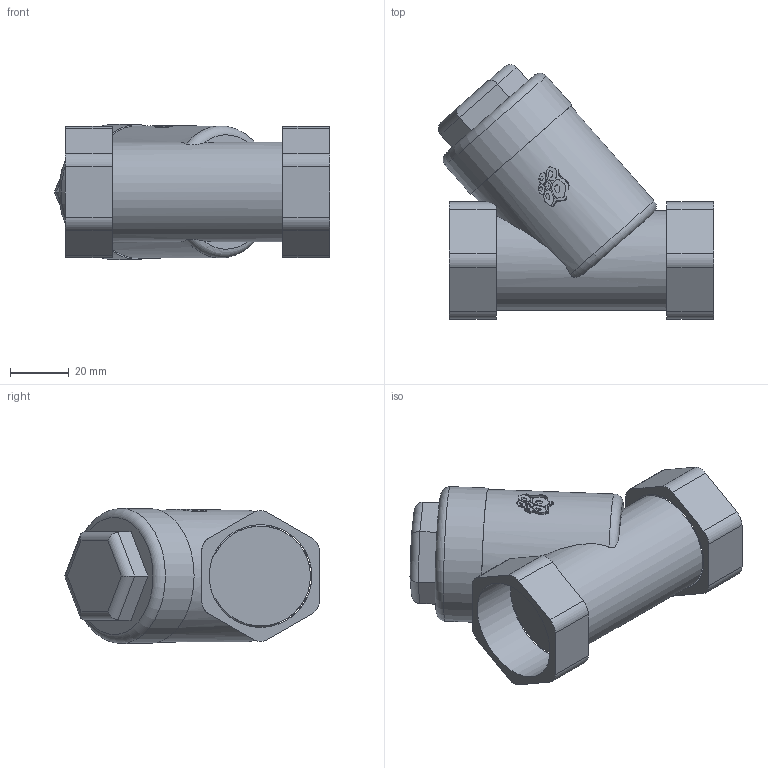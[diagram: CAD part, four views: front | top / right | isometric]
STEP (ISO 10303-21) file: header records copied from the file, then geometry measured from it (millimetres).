
FILE_DESCRIPTION(('STEP AP203'), '1');
FILE_NAME('3D_6460-025-40', '', ('UNSPECIFIED'), ('UNSPECIFIED'), 'C3D Converter', 'C3D Toolkit', '');
FILE_SCHEMA(('CONFIG_CONTROL_DESIGN'));
Length unit declared in the file: millimetre
Bounding box: 93.78 x 86.68 x 46 mm (x, y, z)
Volume: 152162.1 mm3; surface area: 25358 mm2
Topology: 2 solids, 2 shells, 881 faces, 2583 edges, 1721 vertices
Faces by surface type: plane 850, cylinder 29, torus 2
Full cylindrical faces by diameter (mm): 34 x1, 35 x2, 45 x1, 46 x1
Entity records: 36372 total; most frequent: CARTESIAN_POINT 8199, ORIENTED_EDGE 5154, DIRECTION 3573, EDGE_CURVE 2577, VERTEX_POINT 1721, LINE 1715, VECTOR 1715, AXIS2_PLACEMENT_3D 929
